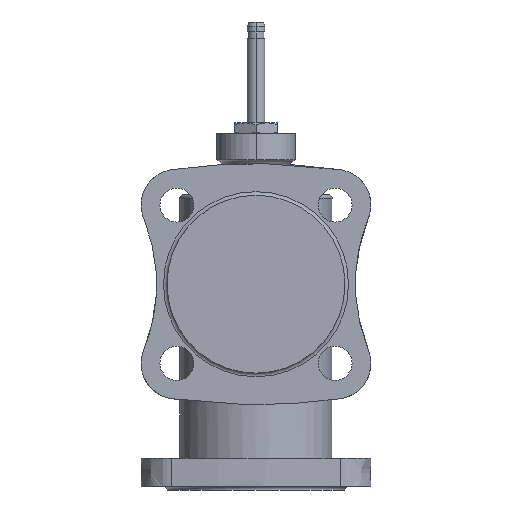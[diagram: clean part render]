
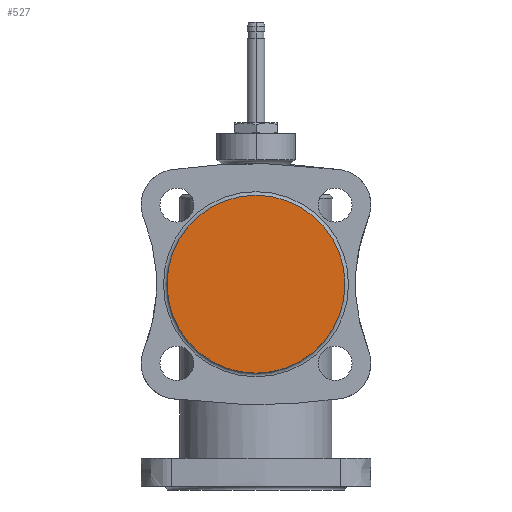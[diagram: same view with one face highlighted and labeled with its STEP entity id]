
A CAD part, left-side view. The second image highlights one B-rep face of the part: STEP entity #527.
In plain terms, the highlighted planar face has unit normal (-1, 0, 0).
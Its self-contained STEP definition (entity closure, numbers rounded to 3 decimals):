
#179=FACE_OUTER_BOUND('',#941,.T.);
#527=ADVANCED_FACE('',(#179),#663,.T.);
#663=PLANE('',#2519);
#941=EDGE_LOOP('',(#1262));
#1262=ORIENTED_EDGE('',*,*,#2123,.F.);
#1890=VERTEX_POINT('',#4701);
#2123=EDGE_CURVE('',#1890,#1890,#2358,.T.);
#2358=CIRCLE('',#2517,49.7);
#2517=AXIS2_PLACEMENT_3D('',#4700,#2870,#2871);
#2519=AXIS2_PLACEMENT_3D('',#4703,#2874,#2875);
#2870=DIRECTION('',(1.,0.,0.));
#2871=DIRECTION('',(0.,0.,-1.));
#2874=DIRECTION('',(-1.,0.,0.));
#2875=DIRECTION('',(0.,0.,1.));
#4700=CARTESIAN_POINT('',(115.,0.,0.));
#4701=CARTESIAN_POINT('',(115.,0.,-49.7));
#4703=CARTESIAN_POINT('',(115.,0.,0.));
